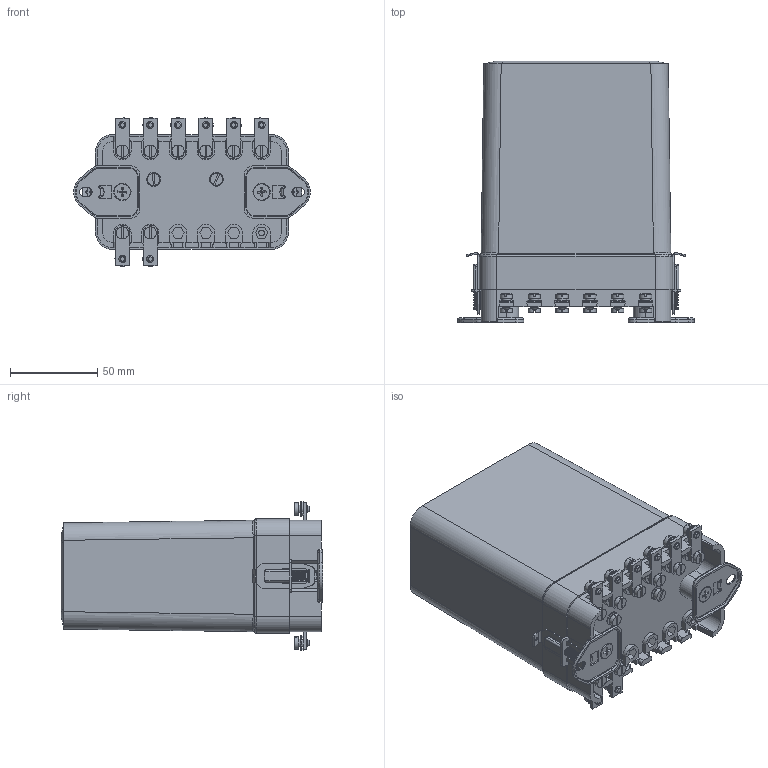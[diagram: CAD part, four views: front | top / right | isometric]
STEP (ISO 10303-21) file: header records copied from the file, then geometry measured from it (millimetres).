
FILE_DESCRIPTION(('STEP AP203'), '1');
FILE_NAME('ﾐﾑﾂ-01-5', '', ('UNSPECIFIED'), ('UNSPECIFIED'), 'ASCON STEP Converter 1.3', 'ASCON Math Kernel', '');
FILE_SCHEMA(('CONFIG_CONTROL_DESIGN'));
Length unit declared in the file: millimetre
Bounding box: 136 x 150.3 x 85.5 mm (x, y, z)
Volume: 168311.2 mm3; surface area: 135919.5 mm2
Topology: 1 solids, 1 shells, 1797 faces, 5068 edges, 3273 vertices
Faces by surface type: plane 1170, cylinder 459, torus 90, cone 38, bspline 38, sphere 2
Full cylindrical faces by diameter (mm): 2 x2, 3.242 x10, 3.5 x2, 4 x35, 4.2 x10, 4.3 x8, 4.5 x2, 5.5 x12, 7 x18, 8 x2, 9.3 x2
Entity records: 86579 total; most frequent: CARTESIAN_POINT 25701, ORIENTED_EDGE 9830, DIRECTION 9328, EDGE_CURVE 4915, LINE 3414, VECTOR 3414, VERTEX_POINT 3271, AXIS2_PLACEMENT_3D 2957
